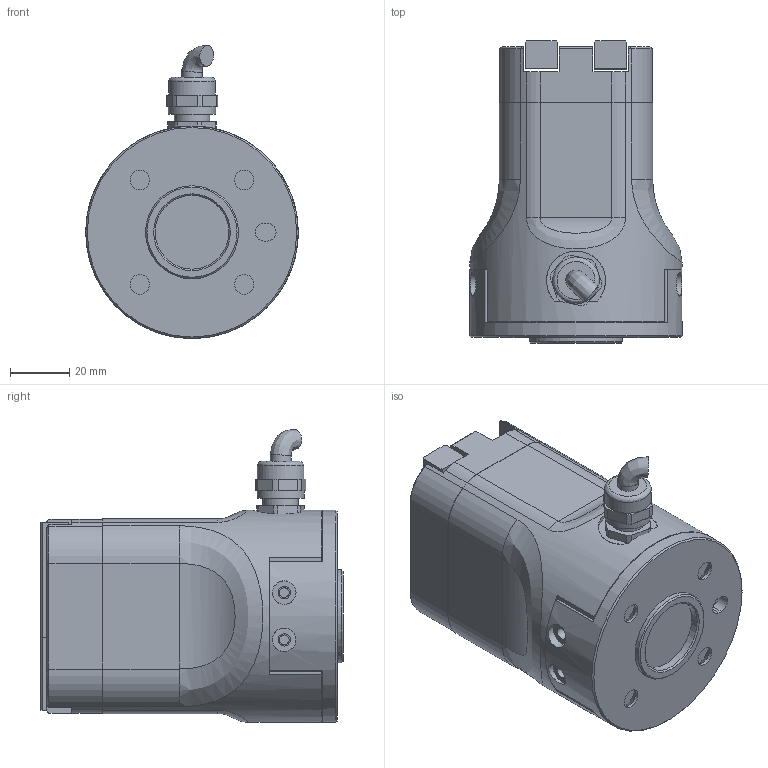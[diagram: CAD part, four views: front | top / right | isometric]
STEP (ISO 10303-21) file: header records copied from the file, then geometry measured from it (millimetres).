
FILE_DESCRIPTION (( 'STEP AP203' ), '1' );
FILE_NAME ('EFG-C50 V4.0(Íâ·¢).STEP', '2023-11-16T09:37:41', ( '' ), ( '' ), 'SwSTEP 2.0', 'SolidWorks 2022', '' );
FILE_SCHEMA (( 'CONFIG_CONTROL_DESIGN' ));
Length unit declared in the file: millimetre
Products named in the file (4): EFG-C50 V4.0(俋楷); EFG-C50 V4.0(俋楷忒硌); EFG-C50 V4.0(俋楷褲极); EFG-C50 V4.0(楊擘)
Assembly tree (4 placements, depth 2):
  EFG-C50 V4.0(俋楷)
    EFG-C50 V4.0(俋楷褲极)
    EFG-C50 V4.0(俋楷忒硌)  x2
    EFG-C50 V4.0(楊擘)
Bounding box: 72 x 102.5 x 99.28 mm (x, y, z)
Volume: 345153.5 mm3; surface area: 56132.4 mm2
Topology: 7 solids, 9 shells, 263 faces, 619 edges, 405 vertices
Faces by surface type: plane 123, cylinder 106, cone 19, torus 9, bspline 6
Full cylindrical faces by diameter (mm): 2.8 x1, 2.9 x1, 3 x6, 3.3 x9, 3.5 x1, 4.2 x4, 4.5 x1, 6.6 x4, 7 x1, 8 x4, 12 x4, 15.8 x1, 16 x1, 25 x1, 31.5 x1, 72 x2
Entity records: 9887 total; most frequent: CARTESIAN_POINT 4039, DIRECTION 1167, ORIENTED_EDGE 1002, EDGE_CURVE 501, AXIS2_PLACEMENT_3D 466, VERTEX_POINT 357, EDGE_LOOP 346, FACE_OUTER_BOUND 286
